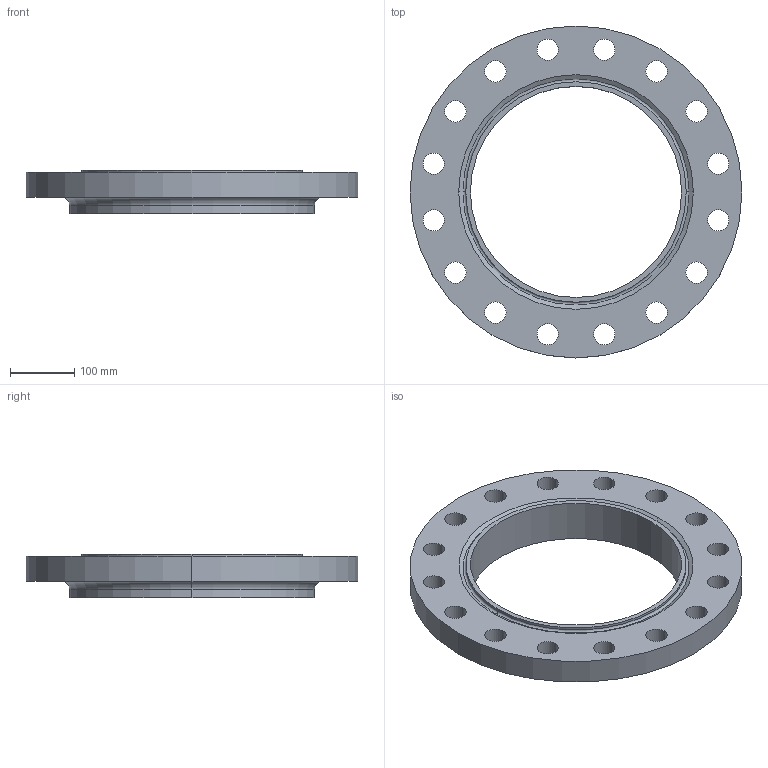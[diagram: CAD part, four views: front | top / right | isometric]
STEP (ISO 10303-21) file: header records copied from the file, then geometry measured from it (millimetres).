
FILE_DESCRIPTION (( 'STEP AP214' ), '1' );
FILE_NAME ('PN40 DN300 Type 12 - Type H Face.STEP', '2019-01-05T20:20:21', ( '' ), ( '' ), 'SwSTEP 2.0', 'SolidWorks 2019', '' );
FILE_SCHEMA (( 'AUTOMOTIVE_DESIGN' ));
Length unit declared in the file: millimetre
Products named in the file (1): PN40 DN300 Type 12 - Type H Face
Bounding box: 515 x 515 x 67 mm (x, y, z)
Volume: 5111318 mm3; surface area: 450440.3 mm2
Topology: 1 solids, 1 shells, 50 faces, 132 edges, 86 vertices
Faces by surface type: cylinder 40, torus 4, plane 4, cone 2
Entity records: 1700 total; most frequent: DIRECTION 324, CARTESIAN_POINT 269, ORIENTED_EDGE 264, AXIS2_PLACEMENT_3D 141, EDGE_CURVE 132, CIRCLE 90, EDGE_LOOP 86, VERTEX_POINT 86
